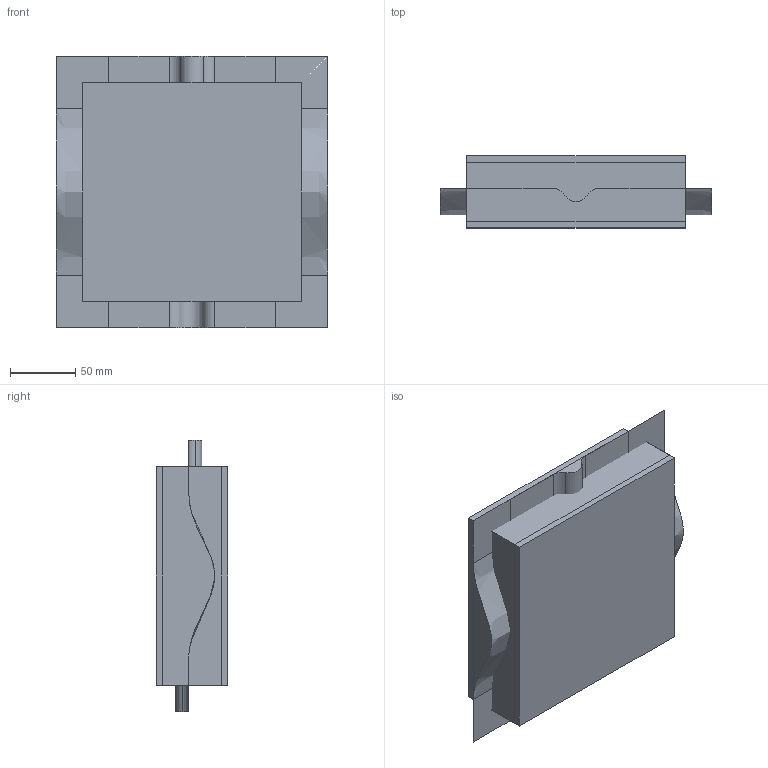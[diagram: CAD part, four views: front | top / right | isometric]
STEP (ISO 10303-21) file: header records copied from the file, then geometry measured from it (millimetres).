
FILE_DESCRIPTION(('CATIA V5 STEP Exchange'),'2;1');
FILE_NAME('C:\_Andres\UNIVERSIDAD\IQS\ASIGNATURAS\DAO\EXF\EXF-16172c\2inicio\Ribera_Armengol_Ej02_v28.stp','2017-03-05T15:45:36+00:00',('none'),('none'),'CATIA Version 5-6 Release 2014 SP1 HF18','CATIA V5 STEP AP203','none');
FILE_SCHEMA(('CONFIG_CONTROL_DESIGN'));
Length unit declared in the file: millimetre
Products named in the file (1): Ribera_Armengol_Ej02_v28
Bounding box: 208 x 55 x 208 mm (x, y, z)
Surface area: 281062.4 mm2
Topology: 3 solids, 10 shells, 72 faces, 205 edges, 150 vertices
Faces by surface type: bspline 32, plane 32, cylinder 6, extrusion 2
Entity records: 5936 total; most frequent: CARTESIAN_POINT 4619, ORIENTED_EDGE 288, DIRECTION 151, EDGE_CURVE 132, VERTEX_POINT 84, VECTOR 77, LINE 75, ADVANCED_FACE 72
